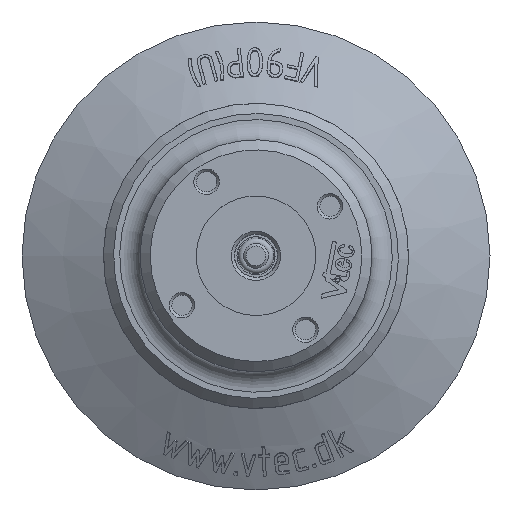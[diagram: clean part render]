
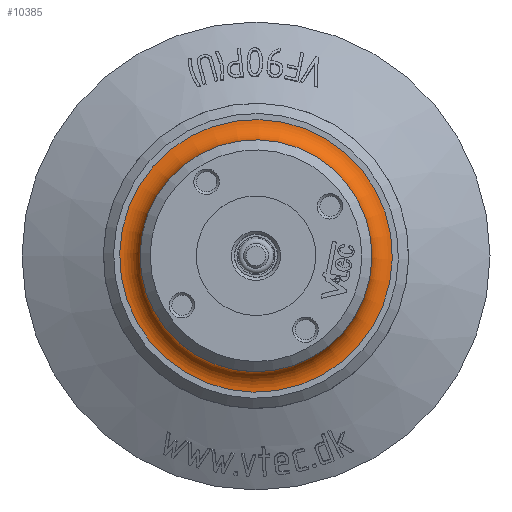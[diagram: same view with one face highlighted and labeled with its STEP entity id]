
A CAD part, top view. The second image highlights one B-rep face of the part: STEP entity #10385.
In plain terms, the highlighted toroidal (fillet/blend) face has major radius 26.8 mm and minor radius 4 mm.
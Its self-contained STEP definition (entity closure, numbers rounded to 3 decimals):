
#10385 = ADVANCED_FACE( '', ( #15539, #15540 ), #15541, .F. );
#15539 = FACE_OUTER_BOUND( '', #17814, .T. );
#15540 = FACE_OUTER_BOUND( '', #17815, .T. );
#15541 = TOROIDAL_SURFACE( '', #17816, 26.8, 4. );
#17814 = EDGE_LOOP( '', ( #21267 ) );
#17815 = EDGE_LOOP( '', ( #21268 ) );
#17816 = AXIS2_PLACEMENT_3D( '', #21269, #21270, #21271 );
#21267 = ORIENTED_EDGE( '', *, *, #27818, .T. );
#21268 = ORIENTED_EDGE( '', *, *, #27819, .F. );
#21269 = CARTESIAN_POINT( '', ( 0., 0., 2.25 ) );
#21270 = DIRECTION( '', ( 0., 0., 1. ) );
#21271 = DIRECTION( '', ( 1., 0., 0. ) );
#27818 = EDGE_CURVE( '', #29836, #29836, #29837, .T. );
#27819 = EDGE_CURVE( '', #29838, #29838, #29839, .T. );
#29836 = VERTEX_POINT( '', #30338 );
#29837 = CIRCLE( '', #30339, 26.8 );
#29838 = VERTEX_POINT( '', #30340 );
#29839 = CIRCLE( '', #30341, 22.8 );
#30338 = CARTESIAN_POINT( '', ( 26.8, 0., -1.75 ) );
#30339 = AXIS2_PLACEMENT_3D( '', #30881, #30882, #30883 );
#30340 = CARTESIAN_POINT( '', ( 22.8, 0., 2.25 ) );
#30341 = AXIS2_PLACEMENT_3D( '', #30884, #30885, #30886 );
#30881 = CARTESIAN_POINT( '', ( 0., 0., -1.75 ) );
#30882 = DIRECTION( '', ( 0., 0., 1. ) );
#30883 = DIRECTION( '', ( 1., 0., 0. ) );
#30884 = CARTESIAN_POINT( '', ( 0., 0., 2.25 ) );
#30885 = DIRECTION( '', ( 0., 0., 1. ) );
#30886 = DIRECTION( '', ( 1., 0., 0. ) );
